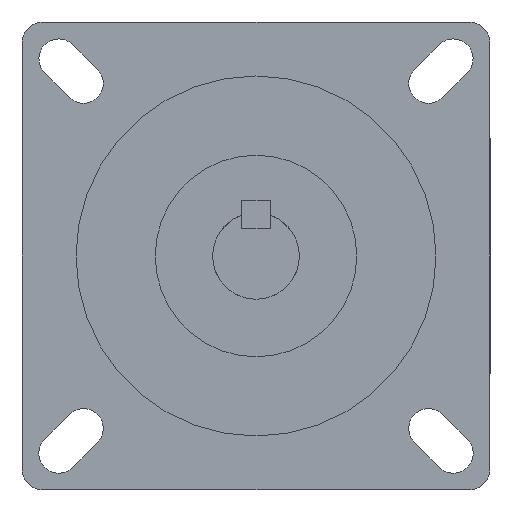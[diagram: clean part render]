
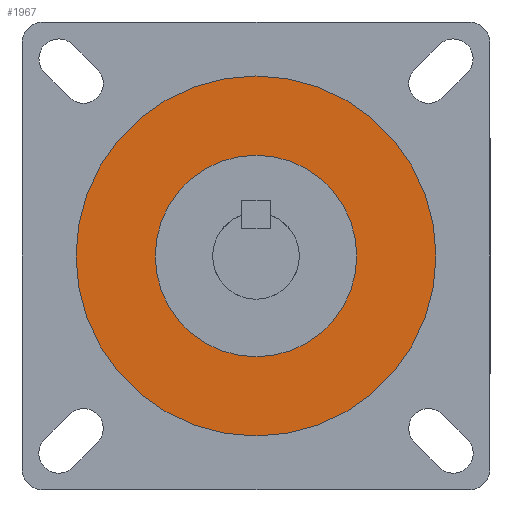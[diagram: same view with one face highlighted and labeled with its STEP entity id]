
A CAD part, left-side view. The second image highlights one B-rep face of the part: STEP entity #1967.
In plain terms, the highlighted planar face has unit normal (-1, 0, 0).
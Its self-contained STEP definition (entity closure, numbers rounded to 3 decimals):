
#7 = CIRCLE ( 'NONE', #4146, 50. ) ;
#248 = EDGE_LOOP ( 'NONE', ( #2782, #4033 ) ) ;
#343 = DIRECTION ( 'NONE',  ( -1., 0., 0. ) ) ;
#358 = DIRECTION ( 'NONE',  ( 0., 0., 1. ) ) ;
#516 = FACE_BOUND ( 'NONE', #248, .T. ) ;
#727 = DIRECTION ( 'NONE',  ( 0., 0., 1. ) ) ;
#856 = CARTESIAN_POINT ( 'NONE',  ( -4., 0., 0. ) ) ;
#875 = DIRECTION ( 'NONE',  ( -1., 0., 0. ) ) ;
#966 = CIRCLE ( 'NONE', #5082, 28. ) ;
#1064 = DIRECTION ( 'NONE',  ( 0., 0., 1. ) ) ;
#1102 = EDGE_CURVE ( 'NONE', #1622, #4508, #7, .T. ) ;
#1252 = DIRECTION ( 'NONE',  ( -1., 0., 0. ) ) ;
#1388 = PLANE ( 'NONE',  #1412 ) ;
#1412 = AXIS2_PLACEMENT_3D ( 'NONE', #856, #343, #4933 ) ;
#1419 = CARTESIAN_POINT ( 'NONE',  ( -4., 0., -28. ) ) ;
#1584 = DIRECTION ( 'NONE',  ( -1., 0., 0. ) ) ;
#1622 = VERTEX_POINT ( 'NONE', #4444 ) ;
#1692 = AXIS2_PLACEMENT_3D ( 'NONE', #2006, #5024, #4497 ) ;
#1784 = CARTESIAN_POINT ( 'NONE',  ( -4., 0., 0. ) ) ;
#1810 = ORIENTED_EDGE ( 'NONE', *, *, #1102, .T. ) ;
#1930 = CARTESIAN_POINT ( 'NONE',  ( -4., 0., 0. ) ) ;
#1967 = ADVANCED_FACE ( 'NONE', ( #3216, #516 ), #1388, .T. ) ;
#2006 = CARTESIAN_POINT ( 'NONE',  ( -4., 0., 0. ) ) ;
#2158 = EDGE_CURVE ( 'NONE', #3579, #2539, #3032, .T. ) ;
#2179 = ORIENTED_EDGE ( 'NONE', *, *, #3261, .T. ) ;
#2539 = VERTEX_POINT ( 'NONE', #1419 ) ;
#2669 = CARTESIAN_POINT ( 'NONE',  ( -4., 0., 0. ) ) ;
#2782 = ORIENTED_EDGE ( 'NONE', *, *, #5056, .F. ) ;
#3032 = CIRCLE ( 'NONE', #1692, 28. ) ;
#3216 = FACE_OUTER_BOUND ( 'NONE', #4441, .T. ) ;
#3261 = EDGE_CURVE ( 'NONE', #4508, #1622, #4788, .T. ) ;
#3579 = VERTEX_POINT ( 'NONE', #4975 ) ;
#3687 = CARTESIAN_POINT ( 'NONE',  ( -4., 0., 50. ) ) ;
#4033 = ORIENTED_EDGE ( 'NONE', *, *, #2158, .F. ) ;
#4146 = AXIS2_PLACEMENT_3D ( 'NONE', #1930, #875, #358 ) ;
#4441 = EDGE_LOOP ( 'NONE', ( #1810, #2179 ) ) ;
#4444 = CARTESIAN_POINT ( 'NONE',  ( -4., 0., -50. ) ) ;
#4497 = DIRECTION ( 'NONE',  ( 0., 0., 1. ) ) ;
#4508 = VERTEX_POINT ( 'NONE', #3687 ) ;
#4788 = CIRCLE ( 'NONE', #5091, 50. ) ;
#4933 = DIRECTION ( 'NONE',  ( 0., 0., 1. ) ) ;
#4975 = CARTESIAN_POINT ( 'NONE',  ( -4., 0., 28. ) ) ;
#5024 = DIRECTION ( 'NONE',  ( -1., 0., 0. ) ) ;
#5056 = EDGE_CURVE ( 'NONE', #2539, #3579, #966, .T. ) ;
#5082 = AXIS2_PLACEMENT_3D ( 'NONE', #1784, #1252, #727 ) ;
#5091 = AXIS2_PLACEMENT_3D ( 'NONE', #2669, #1584, #1064 ) ;
